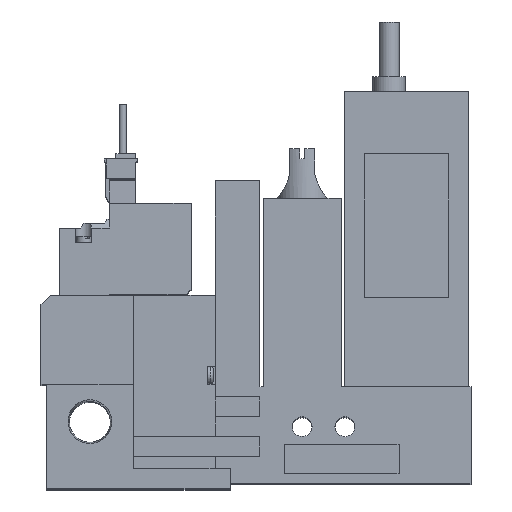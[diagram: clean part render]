
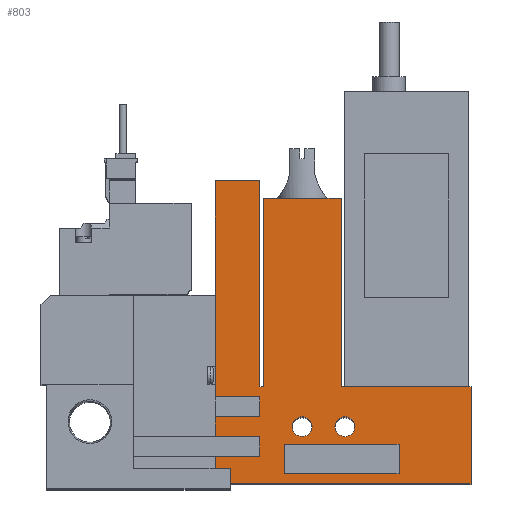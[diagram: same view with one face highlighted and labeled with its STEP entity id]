
A CAD part, top view. The second image highlights one B-rep face of the part: STEP entity #803.
In plain terms, the highlighted planar face has unit normal (0, 0, 1).
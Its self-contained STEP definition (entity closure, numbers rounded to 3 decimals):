
#803=ADVANCED_FACE('',(#1589,#1590,#1591,#1592),#1593,.T.);
#1589=FACE_OUTER_BOUND('',#2722,.T.);
#1590=FACE_BOUND('',#2723,.T.);
#1591=FACE_BOUND('',#2724,.T.);
#1592=FACE_BOUND('',#2725,.T.);
#1593=PLANE('',#2726);
#2722=EDGE_LOOP('',(#5422,#5423,#5424,#5425,#5426,#5427,#5428,#5429,#5430,#5431,#5432,#5433,#5434,#5435,#5436,#5437,#5438,#5439));
#2723=EDGE_LOOP('',(#5440,#5441,#5442,#5443));
#2724=EDGE_LOOP('',(#5444));
#2725=EDGE_LOOP('',(#5445));
#2726=AXIS2_PLACEMENT_3D('',#5446,#5447,#5448);
#5422=ORIENTED_EDGE('',*,*,#7652,.T.);
#5423=ORIENTED_EDGE('',*,*,#7653,.T.);
#5424=ORIENTED_EDGE('',*,*,#7654,.T.);
#5425=ORIENTED_EDGE('',*,*,#7655,.T.);
#5426=ORIENTED_EDGE('',*,*,#7656,.T.);
#5427=ORIENTED_EDGE('',*,*,#7657,.T.);
#5428=ORIENTED_EDGE('',*,*,#7658,.T.);
#5429=ORIENTED_EDGE('',*,*,#7659,.T.);
#5430=ORIENTED_EDGE('',*,*,#7660,.T.);
#5431=ORIENTED_EDGE('',*,*,#7661,.T.);
#5432=ORIENTED_EDGE('',*,*,#7612,.T.);
#5433=ORIENTED_EDGE('',*,*,#7622,.T.);
#5434=ORIENTED_EDGE('',*,*,#7662,.T.);
#5435=ORIENTED_EDGE('',*,*,#7663,.T.);
#5436=ORIENTED_EDGE('',*,*,#7664,.T.);
#5437=ORIENTED_EDGE('',*,*,#7665,.T.);
#5438=ORIENTED_EDGE('',*,*,#7666,.T.);
#5439=ORIENTED_EDGE('',*,*,#7667,.T.);
#5440=ORIENTED_EDGE('',*,*,#7668,.T.);
#5441=ORIENTED_EDGE('',*,*,#7669,.T.);
#5442=ORIENTED_EDGE('',*,*,#7670,.T.);
#5443=ORIENTED_EDGE('',*,*,#7671,.T.);
#5444=ORIENTED_EDGE('',*,*,#7672,.T.);
#5445=ORIENTED_EDGE('',*,*,#7673,.T.);
#5446=CARTESIAN_POINT('',(0.0,0.0,10.0));
#5447=DIRECTION('',(0.0,0.0,1.0));
#5448=DIRECTION('',(1.0,0.0,0.0));
#7612=EDGE_CURVE('',#9187,#9185,#9188,.T.);
#7622=EDGE_CURVE('',#9185,#9204,#9206,.T.);
#7652=EDGE_CURVE('',#9263,#9264,#9265,.T.);
#7653=EDGE_CURVE('',#9264,#9266,#9267,.T.);
#7654=EDGE_CURVE('',#9266,#9268,#9269,.T.);
#7655=EDGE_CURVE('',#9268,#9270,#9271,.T.);
#7656=EDGE_CURVE('',#9270,#9272,#9273,.T.);
#7657=EDGE_CURVE('',#9272,#9274,#9275,.T.);
#7658=EDGE_CURVE('',#9274,#9276,#9277,.T.);
#7659=EDGE_CURVE('',#9276,#9278,#9279,.T.);
#7660=EDGE_CURVE('',#9278,#9280,#9281,.T.);
#7661=EDGE_CURVE('',#9280,#9187,#9282,.T.);
#7662=EDGE_CURVE('',#9204,#9283,#9284,.T.);
#7663=EDGE_CURVE('',#9283,#9285,#9286,.T.);
#7664=EDGE_CURVE('',#9285,#9287,#9288,.T.);
#7665=EDGE_CURVE('',#9287,#9289,#9290,.T.);
#7666=EDGE_CURVE('',#9289,#9291,#9292,.T.);
#7667=EDGE_CURVE('',#9291,#9263,#9293,.T.);
#7668=EDGE_CURVE('',#9294,#9295,#9296,.T.);
#7669=EDGE_CURVE('',#9295,#9297,#9298,.T.);
#7670=EDGE_CURVE('',#9297,#9299,#9300,.T.);
#7671=EDGE_CURVE('',#9299,#9294,#9301,.T.);
#7672=EDGE_CURVE('',#9302,#9302,#9303,.T.);
#7673=EDGE_CURVE('',#9304,#9304,#9305,.T.);
#9185=VERTEX_POINT('',#11713);
#9187=VERTEX_POINT('',#11716);
#9188=LINE('',#11717,#11718);
#9204=VERTEX_POINT('',#11742);
#9206=LINE('',#11745,#11746);
#9263=VERTEX_POINT('',#11824);
#9264=VERTEX_POINT('',#11825);
#9265=LINE('',#11826,#11827);
#9266=VERTEX_POINT('',#11828);
#9267=LINE('',#11829,#11830);
#9268=VERTEX_POINT('',#11831);
#9269=LINE('',#11832,#11833);
#9270=VERTEX_POINT('',#11834);
#9271=LINE('',#11835,#11836);
#9272=VERTEX_POINT('',#11837);
#9273=LINE('',#11838,#11839);
#9274=VERTEX_POINT('',#11840);
#9275=LINE('',#11841,#11842);
#9276=VERTEX_POINT('',#11843);
#9277=LINE('',#11844,#11845);
#9278=VERTEX_POINT('',#11846);
#9279=LINE('',#11847,#11848);
#9280=VERTEX_POINT('',#11849);
#9281=LINE('',#11850,#11851);
#9282=LINE('',#11852,#11853);
#9283=VERTEX_POINT('',#11854);
#9284=LINE('',#11855,#11856);
#9285=VERTEX_POINT('',#11857);
#9286=LINE('',#11858,#11859);
#9287=VERTEX_POINT('',#11860);
#9288=LINE('',#11861,#11862);
#9289=VERTEX_POINT('',#11863);
#9290=LINE('',#11864,#11865);
#9291=VERTEX_POINT('',#11866);
#9292=LINE('',#11867,#11868);
#9293=LINE('',#11869,#11870);
#9294=VERTEX_POINT('',#11871);
#9295=VERTEX_POINT('',#11872);
#9296=LINE('',#11873,#11874);
#9297=VERTEX_POINT('',#11875);
#9298=LINE('',#11876,#11877);
#9299=VERTEX_POINT('',#11878);
#9300=LINE('',#11879,#11880);
#9301=LINE('',#11881,#11882);
#9302=VERTEX_POINT('',#11883);
#9303=CIRCLE('',#11884,2.0);
#9304=VERTEX_POINT('',#11885);
#9305=CIRCLE('',#11886,2.0);
#11713=CARTESIAN_POINT('',(86.6,19.5,10.0));
#11716=CARTESIAN_POINT('',(86.6,0.0,10.0));
#11717=CARTESIAN_POINT('',(86.6,0.0,10.0));
#11718=VECTOR('',#13965,1.0);
#11742=CARTESIAN_POINT('',(60.45,19.5,10.0));
#11745=CARTESIAN_POINT('',(86.6,19.5,10.0));
#11746=VECTOR('',#13975,1.0);
#11824=CARTESIAN_POINT('',(35.1,61.0,10.0));
#11825=CARTESIAN_POINT('',(35.1,17.5,10.0));
#11826=CARTESIAN_POINT('',(35.1,61.0,10.0));
#11827=VECTOR('',#14021,1.0);
#11828=CARTESIAN_POINT('',(44.1,17.5,10.0));
#11829=CARTESIAN_POINT('',(0.0,17.5,10.0));
#11830=VECTOR('',#14022,1.0);
#11831=CARTESIAN_POINT('',(44.1,13.5,10.0));
#11832=CARTESIAN_POINT('',(44.1,0.0,10.0));
#11833=VECTOR('',#14023,1.0);
#11834=CARTESIAN_POINT('',(35.1,13.5,10.0));
#11835=CARTESIAN_POINT('',(0.0,13.5,10.0));
#11836=VECTOR('',#14024,1.0);
#11837=CARTESIAN_POINT('',(35.1,9.5,10.0));
#11838=CARTESIAN_POINT('',(35.1,0.0,10.0));
#11839=VECTOR('',#14025,1.0);
#11840=CARTESIAN_POINT('',(44.1,9.5,10.0));
#11841=CARTESIAN_POINT('',(0.0,9.5,10.0));
#11842=VECTOR('',#14026,1.0);
#11843=CARTESIAN_POINT('',(44.1,5.5,10.0));
#11844=CARTESIAN_POINT('',(44.1,0.0,10.0));
#11845=VECTOR('',#14027,1.0);
#11846=CARTESIAN_POINT('',(35.1,5.5,10.0));
#11847=CARTESIAN_POINT('',(0.0,5.5,10.0));
#11848=VECTOR('',#14028,1.0);
#11849=CARTESIAN_POINT('',(35.1,0.0,10.0));
#11850=CARTESIAN_POINT('',(35.1,0.0,10.0));
#11851=VECTOR('',#14029,1.0);
#11852=CARTESIAN_POINT('',(18.6,0.0,10.0));
#11853=VECTOR('',#14030,1.0);
#11854=CARTESIAN_POINT('',(60.45,57.5,10.0));
#11855=CARTESIAN_POINT('',(60.45,19.5,10.0));
#11856=VECTOR('',#14031,1.0);
#11857=CARTESIAN_POINT('',(44.75,57.5,10.0));
#11858=CARTESIAN_POINT('',(60.45,57.5,10.0));
#11859=VECTOR('',#14032,1.0);
#11860=CARTESIAN_POINT('',(44.75,19.5,10.0));
#11861=CARTESIAN_POINT('',(44.75,57.5,10.0));
#11862=VECTOR('',#14033,1.0);
#11863=CARTESIAN_POINT('',(44.1,19.5,10.0));
#11864=CARTESIAN_POINT('',(44.75,19.5,10.0));
#11865=VECTOR('',#14034,1.0);
#11866=CARTESIAN_POINT('',(44.1,61.0,10.0));
#11867=CARTESIAN_POINT('',(44.1,19.5,10.0));
#11868=VECTOR('',#14035,1.0);
#11869=CARTESIAN_POINT('',(44.1,61.0,10.0));
#11870=VECTOR('',#14036,1.0);
#11871=CARTESIAN_POINT('',(49.1,2.0,10.0));
#11872=CARTESIAN_POINT('',(49.1,8.0,10.0));
#11873=CARTESIAN_POINT('',(49.1,0.0,10.0));
#11874=VECTOR('',#14037,1.0);
#11875=CARTESIAN_POINT('',(72.1,8.0,10.0));
#11876=CARTESIAN_POINT('',(0.0,8.0,10.0));
#11877=VECTOR('',#14038,1.0);
#11878=CARTESIAN_POINT('',(72.1,2.0,10.0));
#11879=CARTESIAN_POINT('',(72.1,0.0,10.0));
#11880=VECTOR('',#14039,1.0);
#11881=CARTESIAN_POINT('',(0.0,2.0,10.0));
#11882=VECTOR('',#14040,1.0);
#11883=CARTESIAN_POINT('',(54.6,11.5,10.0));
#11884=AXIS2_PLACEMENT_3D('',#14041,#14042,#14043);
#11885=CARTESIAN_POINT('',(63.2,11.5,10.0));
#11886=AXIS2_PLACEMENT_3D('',#14044,#14045,#14046);
#13965=DIRECTION('',(0.0,1.0,0.0));
#13975=DIRECTION('',(-1.0,0.0,0.0));
#14021=DIRECTION('',(0.0,-1.0,0.0));
#14022=DIRECTION('',(1.0,0.0,0.0));
#14023=DIRECTION('',(0.0,-1.0,0.0));
#14024=DIRECTION('',(-1.0,0.0,0.0));
#14025=DIRECTION('',(0.0,-1.0,0.0));
#14026=DIRECTION('',(1.0,0.0,0.0));
#14027=DIRECTION('',(0.0,-1.0,0.0));
#14028=DIRECTION('',(-1.0,0.0,0.0));
#14029=DIRECTION('',(0.0,-1.0,0.0));
#14030=DIRECTION('',(1.0,0.0,0.0));
#14031=DIRECTION('',(0.0,1.0,0.0));
#14032=DIRECTION('',(-1.0,0.0,0.0));
#14033=DIRECTION('',(0.0,-1.0,0.0));
#14034=DIRECTION('',(-1.0,0.0,0.0));
#14035=DIRECTION('',(0.0,1.0,0.0));
#14036=DIRECTION('',(-1.0,0.0,0.0));
#14037=DIRECTION('',(0.0,1.0,0.0));
#14038=DIRECTION('',(1.0,0.0,0.0));
#14039=DIRECTION('',(0.0,-1.0,0.0));
#14040=DIRECTION('',(-1.0,0.0,0.0));
#14041=CARTESIAN_POINT('',(52.6,11.5,10.0));
#14042=DIRECTION('',(0.0,0.0,-1.0));
#14043=DIRECTION('',(1.0,0.0,0.0));
#14044=CARTESIAN_POINT('',(61.2,11.5,10.0));
#14045=DIRECTION('',(0.0,0.0,-1.0));
#14046=DIRECTION('',(1.0,0.0,0.0));
